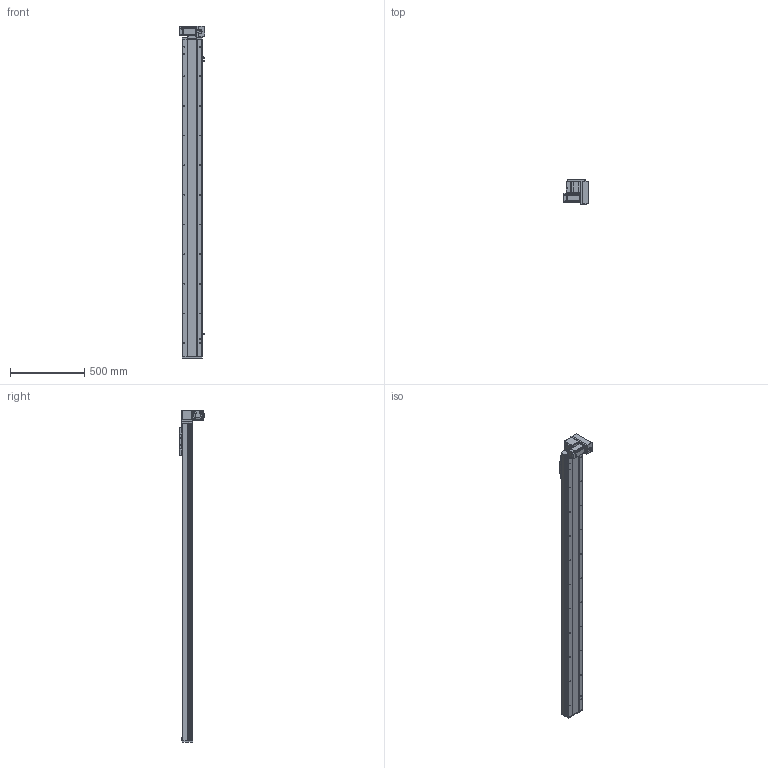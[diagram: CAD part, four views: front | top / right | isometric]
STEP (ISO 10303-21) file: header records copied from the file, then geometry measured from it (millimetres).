
FILE_DESCRIPTION (( 'STEP AP214' ), '1' );
FILE_NAME ('TPE14-L40-1850-RD-T40-C4.STEP', '2023-04-13T03:11:55', ( '' ), ( '' ), 'SwSTEP 2.0', 'SolidWorks 2020', '' );
FILE_SCHEMA (( 'AUTOMOTIVE_DESIGN' ));
Length unit declared in the file: millimetre
Products named in the file (10): 葩璃 TPE14-L-007 々湍釱MZ-169x88^TPE14-L40-RD-T40-C4_YCB14; 葩璃 TPE14 賑雄殤^TPE14-L40-RD-T40-C4; 葩璃 詩湍75^TPE14-L40-RD-T40-C4; hexagon head bolts-full thread gb_GB_FASTENER_BOLT_STBAB A M5X16-N; 葩璃 TPT14-L-009 萇儂啣^TPE14-L40-RD-T40-C4_400W; 葩璃 TPE14-L-001 菁釱MZ-135-01^TPE14-L40-RD-T40-C4; TPE14-L40-1850-RD-T40-C4; 葩璃 pm-t65-672^TPE14-L40-RD-T40-C4; 葩璃 侂狟400W^TPE14-L40-RD-T40-C4; 葩璃 TPE14-L-002 耜裔ZTMZ-135-04^TPE14-L40-RD-T40-C4
Assembly tree (12 placements, depth 2):
  TPE14-L40-1850-RD-T40-C4
    葩璃 TPE14-L-001 菁釱MZ-135-01^TPE14-L40-RD-T40-C4
    葩璃 TPE14-L-002 耜裔ZTMZ-135-04^TPE14-L40-RD-T40-C4  x2
    葩璃 詩湍75^TPE14-L40-RD-T40-C4
    葩璃 TPE14-L-007 々湍釱MZ-169x88^TPE14-L40-RD-T40-C4_YCB14
    葩璃 TPT14-L-009 萇儂啣^TPE14-L40-RD-T40-C4_400W
    葩璃 TPE14 賑雄殤^TPE14-L40-RD-T40-C4
    葩璃 pm-t65-672^TPE14-L40-RD-T40-C4  x3
    葩璃 侂狟400W^TPE14-L40-RD-T40-C4
    hexagon head bolts-full thread gb_GB_FASTENER_BOLT_STBAB A M5X16-N
Bounding box: 172.5 x 171.45 x 2240.5 mm (x, y, z)
Volume: 11217625.1 mm3; surface area: 2135196 mm2
Topology: 23 solids, 23 shells, 1444 faces, 3747 edges, 2370 vertices
Faces by surface type: plane 823, cylinder 437, cone 150, bspline 34
Entity records: 38603 total; most frequent: CARTESIAN_POINT 7490, DIRECTION 6168, ORIENTED_EDGE 5954, EDGE_CURVE 2977, AXIS2_PLACEMENT_3D 2102, LINE 1964, VECTOR 1964, VERTEX_POINT 1918
